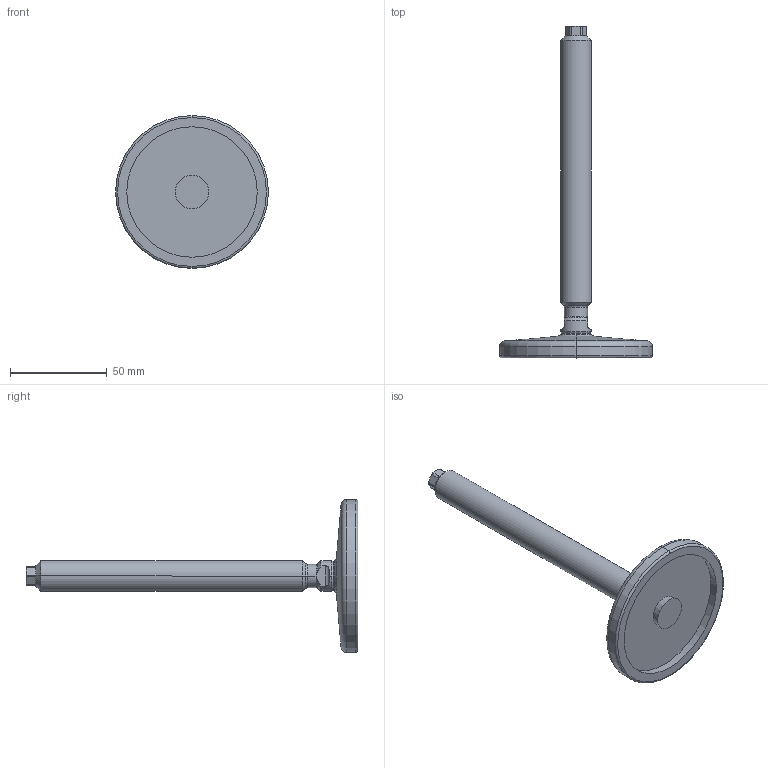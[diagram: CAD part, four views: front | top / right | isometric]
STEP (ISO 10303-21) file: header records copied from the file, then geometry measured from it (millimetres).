
FILE_DESCRIPTION (( 'STEP AP214' ), '1' );
FILE_NAME ('21-80-M16-150-D0-V.step', '2020-10-02T17:35:49', ( '' ), ( '' ), 'SwSTEP 2.0', 'SolidWorks 2019', '' );
FILE_SCHEMA (( 'AUTOMOTIVE_DESIGN' ));
Length unit declared in the file: millimetre
Products named in the file (3): 21-80-M16-150-D0-V; WB21_Fußteller 21^WB21_V_D0-080-R10-B7 (M8 M10_M12_M16); WB21_Spindel_V^WB21_V_M16-150
Assembly tree (2 placements, depth 2):
  21-80-M16-150-D0-V
    WB21_Fußteller 21^WB21_V_D0-080-R10-B7 (M8 M10_M12_M16)
    WB21_Spindel_V^WB21_V_M16-150
Bounding box: 79 x 171.64 x 79 mm (x, y, z)
Volume: 62046 mm3; surface area: 21433.2 mm2
Topology: 2 solids, 2 shells, 79 faces, 177 edges, 105 vertices
Faces by surface type: cylinder 23, cone 21, plane 21, torus 10, sphere 4
Entity records: 2438 total; most frequent: CARTESIAN_POINT 522, DIRECTION 406, ORIENTED_EDGE 354, EDGE_CURVE 177, AXIS2_PLACEMENT_3D 173, VERTEX_POINT 105, CIRCLE 89, EDGE_LOOP 82
